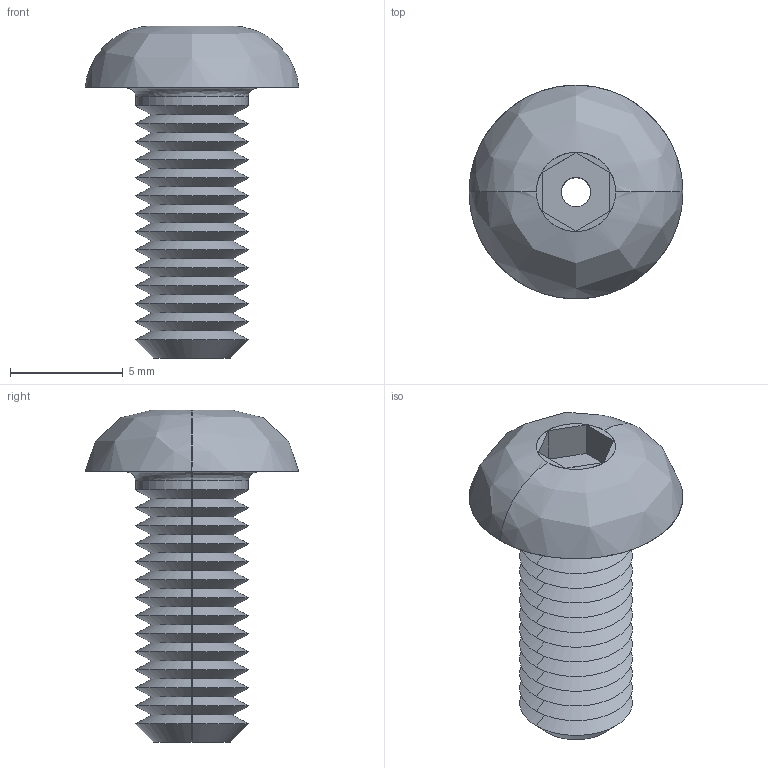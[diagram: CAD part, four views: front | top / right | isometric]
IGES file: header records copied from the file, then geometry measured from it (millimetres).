
Start section: SolidWorks IGES file using analytic representation for surfaces
Global section: file name: C:\Users\liam_\OneDrive\Documents\WORK\Work for WixRoyd\Job Files\J-00019 - Matt Davis CAD Checking\04. CAD Drawings\automotion20190605\P0094_v2\P0094_v2_20190712_IGES\P0094.050-012-A2.igs; native system: SolidWorks 2017; preprocessor: SolidWorks 2017; author: liam_; date: 190712.175353; units: millimetre
Bounding box: 9.5 x 9.5 x 14.75 mm (x, y, z)
Surface area: 545 mm2 (no closed solid volume)
Topology: 0 solids, 0 shells, 72 faces, 444 edges, 444 vertices
Faces by surface type: revolution 58, bspline 14
